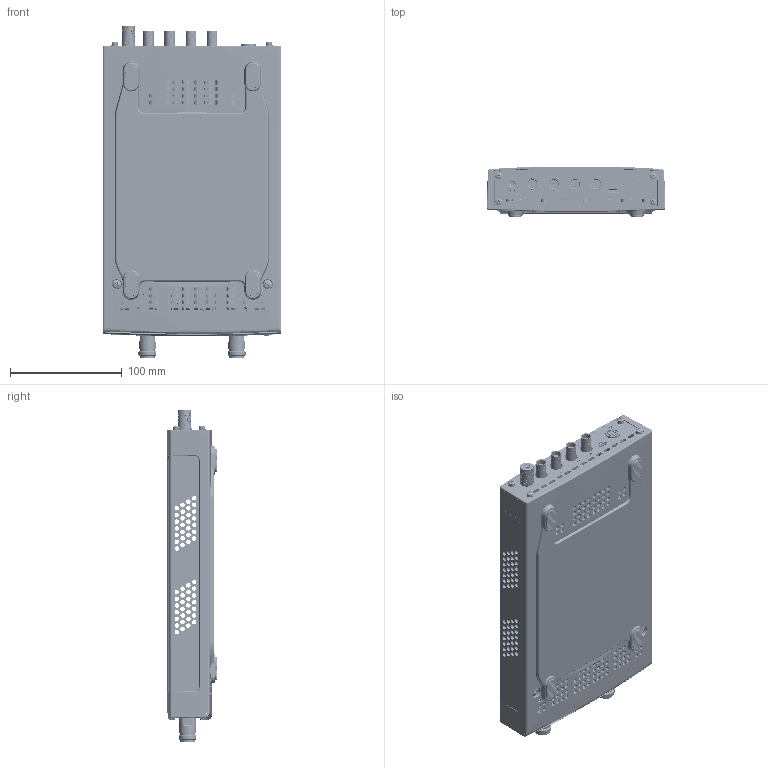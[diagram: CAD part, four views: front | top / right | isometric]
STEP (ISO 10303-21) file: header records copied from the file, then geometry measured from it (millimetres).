
FILE_DESCRIPTION (( 'STEP AP214' ), '1' );
FILE_NAME ('VNA SC0x02.STEP', '2026-02-11T15:17:07', ( '' ), ( '' ), 'SwSTEP 2.0', 'SolidWorks 2024', '' );
FILE_SCHEMA (( 'AUTOMOTIVE_DESIGN' ));
Length unit declared in the file: millimetre
Products named in the file (1): VNA SC0x02
Bounding box: 160 x 44 x 297.27 mm (x, y, z)
Volume: 279519 mm3; surface area: 292107.3 mm2
Topology: 125 solids, 145 shells, 13035 faces, 33512 edges, 20959 vertices
Faces by surface type: plane 5985, cylinder 3132, bspline 2269, cone 748, torus 503, sphere 398
Entity records: 489777 total; most frequent: CARTESIAN_POINT 197280, ORIENTED_EDGE 66578, DIRECTION 52983, EDGE_CURVE 33289, VERTEX_POINT 20953, AXIS2_PLACEMENT_3D 18466, VECTOR 16051, LINE 16051
